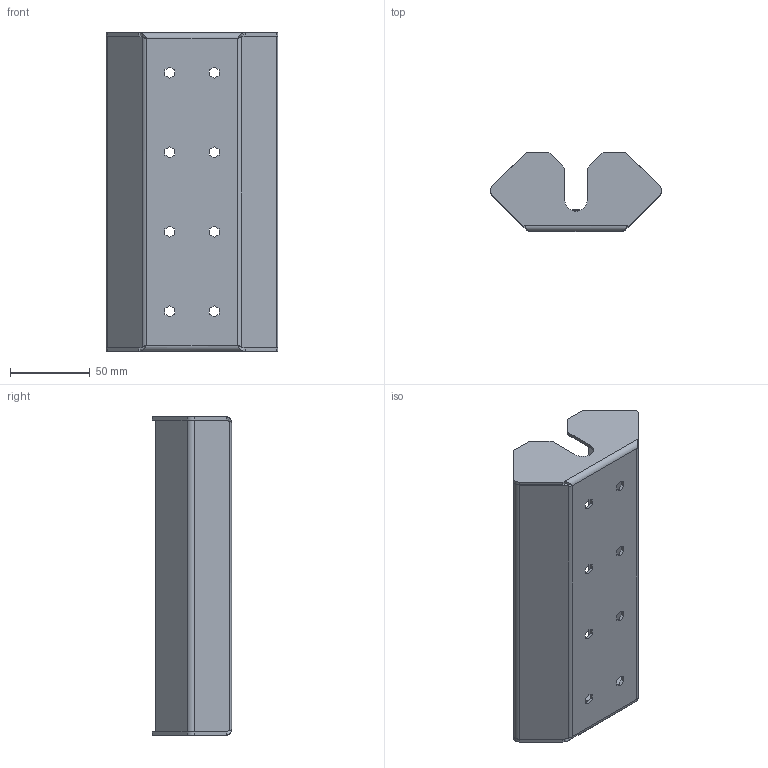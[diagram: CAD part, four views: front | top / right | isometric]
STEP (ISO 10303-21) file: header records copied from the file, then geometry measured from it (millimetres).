
FILE_DESCRIPTION (( 'STEP AP203' ), '1' );
FILE_NAME ('MA1.600.060620.31.00 Óãëîâîé ýëåìåíò öîêîëÿ 200 ìì.STEP', '2024-02-13T12:23:16', ( '' ), ( '' ), 'SwSTEP 2.0', 'SolidWorks 2021', '' );
FILE_SCHEMA (( 'CONFIG_CONTROL_DESIGN' ));
Length unit declared in the file: millimetre
Products named in the file (3): Øïèëüêà Ì6õ12_˜¯¨«ìª  Œ6å12; MA1.600.060620.11.01 Óãëîâîé ýëåìåíò öîêîëÿ 100 ìì_‚=200; MA1.600.060620.31.00 Óãëîâîé ýëåìåíò öîêîëÿ 200 ìì
Assembly tree (2 placements, depth 2):
  MA1.600.060620.31.00 Óãëîâîé ýëåìåíò öîêîëÿ 200 ìì
    MA1.600.060620.11.01 Óãëîâîé ýëåìåíò öîêîëÿ 100 ìì_‚=200
    Øïèëüêà Ì6õ12_˜¯¨«ìª  Œ6å12
Bounding box: 108.05 x 49.73 x 200 mm (x, y, z)
Volume: 87426 mm3; surface area: 90070.6 mm2
Topology: 2 solids, 2 shells, 145 faces, 364 edges, 226 vertices
Faces by surface type: plane 109, cylinder 26, bspline 8, cone 2
Entity records: 4795 total; most frequent: CARTESIAN_POINT 1062, ORIENTED_EDGE 728, DIRECTION 658, EDGE_CURVE 364, VECTOR 298, LINE 298, VERTEX_POINT 226, AXIS2_PLACEMENT_3D 180
